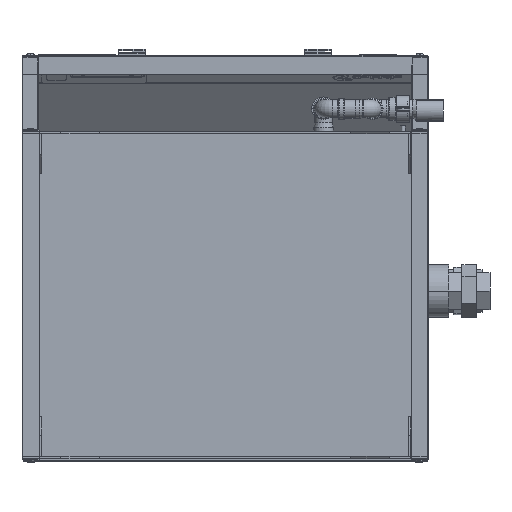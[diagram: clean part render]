
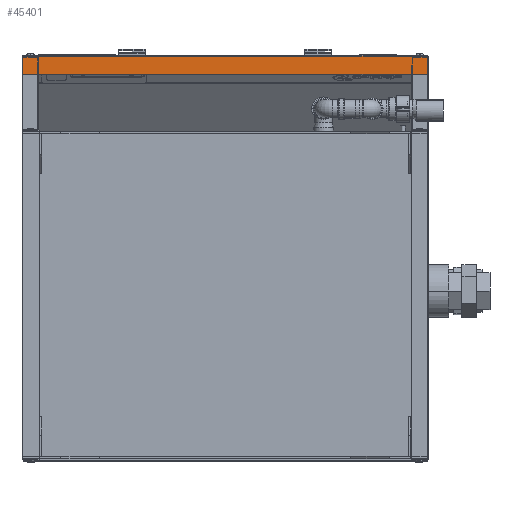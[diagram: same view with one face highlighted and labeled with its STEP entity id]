
A CAD part, front view. The second image highlights one B-rep face of the part: STEP entity #45401.
In plain terms, the highlighted planar face has unit normal (0, -1, 0).
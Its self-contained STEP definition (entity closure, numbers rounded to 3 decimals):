
#3559 = CARTESIAN_POINT ( 'NONE',  ( 379.599, 140.5, 719. ) ) ;
#5760 = DIRECTION ( 'NONE',  ( -1., 0., 0. ) ) ;
#6153 = EDGE_CURVE ( 'NONE', #16656, #28993, #53559, .T. ) ;
#7551 = EDGE_CURVE ( 'NONE', #16656, #34682, #45764, .T. ) ;
#10597 = CARTESIAN_POINT ( 'NONE',  ( 379.599, 140.5, 1648.5 ) ) ;
#12814 = FACE_OUTER_BOUND ( 'NONE', #48727, .T. ) ;
#16486 = ORIENTED_EDGE ( 'NONE', *, *, #7551, .F. ) ;
#16528 = VECTOR ( 'NONE', #25646, 1000. ) ;
#16656 = VERTEX_POINT ( 'NONE', #66956 ) ;
#19521 = CARTESIAN_POINT ( 'NONE',  ( 379.599, 140.5, 1648.5 ) ) ;
#21280 = EDGE_CURVE ( 'NONE', #60935, #28993, #73079, .T. ) ;
#21698 = DIRECTION ( 'NONE',  ( -1., 0., 0. ) ) ;
#23140 = CARTESIAN_POINT ( 'NONE',  ( 379.599, 140.5, 752.4 ) ) ;
#23499 = ORIENTED_EDGE ( 'NONE', *, *, #21280, .F. ) ;
#25646 = DIRECTION ( 'NONE',  ( 0., 0., 1. ) ) ;
#28463 = VECTOR ( 'NONE', #47252, 1000. ) ;
#28993 = VERTEX_POINT ( 'NONE', #51128 ) ;
#29360 = AXIS2_PLACEMENT_3D ( 'NONE', #19521, #42082, #5760 ) ;
#31761 = CARTESIAN_POINT ( 'NONE',  ( -380.401, 140.5, 719. ) ) ;
#33901 = DIRECTION ( 'NONE',  ( 0., 0., -1. ) ) ;
#34543 = ORIENTED_EDGE ( 'NONE', *, *, #48463, .F. ) ;
#34682 = VERTEX_POINT ( 'NONE', #37179 ) ;
#35129 = LINE ( 'NONE', #3559, #54683 ) ;
#37179 = CARTESIAN_POINT ( 'NONE',  ( 379.599, 140.5, 719. ) ) ;
#40504 = ORIENTED_EDGE ( 'NONE', *, *, #6153, .T. ) ;
#42082 = DIRECTION ( 'NONE',  ( 0., 1., 0. ) ) ;
#45401 = ADVANCED_FACE ( 'NONE', ( #12814 ), #67322, .F. ) ;
#45764 = LINE ( 'NONE', #10597, #59038 ) ;
#47252 = DIRECTION ( 'NONE',  ( -1., 0., 0. ) ) ;
#48463 = EDGE_CURVE ( 'NONE', #34682, #60935, #35129, .T. ) ;
#48727 = EDGE_LOOP ( 'NONE', ( #16486, #40504, #23499, #34543 ) ) ;
#51128 = CARTESIAN_POINT ( 'NONE',  ( -380.401, 140.5, 752.4 ) ) ;
#53559 = LINE ( 'NONE', #23140, #28463 ) ;
#54683 = VECTOR ( 'NONE', #21698, 1000. ) ;
#59038 = VECTOR ( 'NONE', #33901, 1000. ) ;
#60935 = VERTEX_POINT ( 'NONE', #31761 ) ;
#66956 = CARTESIAN_POINT ( 'NONE',  ( 379.599, 140.5, 752.4 ) ) ;
#67157 = CARTESIAN_POINT ( 'NONE',  ( -380.401, 140.5, 719. ) ) ;
#67322 = PLANE ( 'NONE',  #29360 ) ;
#73079 = LINE ( 'NONE', #67157, #16528 ) ;
